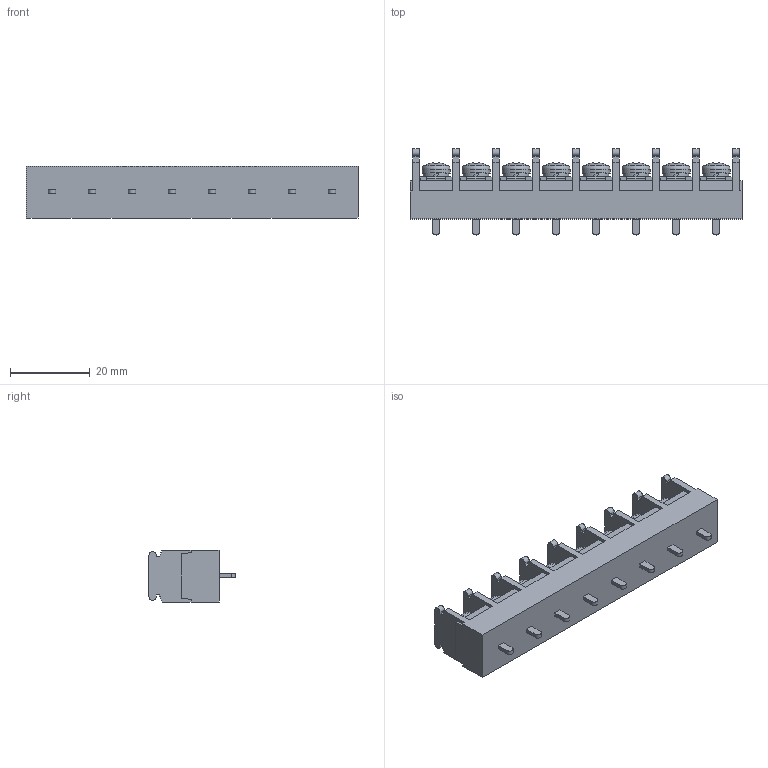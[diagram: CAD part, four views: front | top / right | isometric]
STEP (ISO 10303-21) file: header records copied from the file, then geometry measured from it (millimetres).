
FILE_DESCRIPTION(/* description */ ('Alibre Inc.'),/* implementation_level */ '2;1');
FILE_NAME(/* name */ 'export0',/* time_stamp */ '2015-10-17T18:08:26+09:00',/* author */ (''),/* organization */ (''),/* preprocessor_version */ 'ST-DEVELOPER v14',/* originating_system */ 'Alibre',/* authorisation */ '');
FILE_SCHEMA (('CONFIG_CONTROL_DESIGN'));
Length unit declared in the file: centimetre
Products named in the file (1): ID_1
Bounding box: 83 x 21.5 x 13 mm (x, y, z)
Volume: 12758.2 mm3; surface area: 7413.5 mm2
Topology: 1 solids, 17 shells, 908 faces, 2466 edges, 1636 vertices
Faces by surface type: plane 682, bspline 104, cylinder 66, cone 32, torus 16, sphere 8
Full cylindrical faces by diameter (mm): 4 x8, 6.5 x8, 7 x8
Entity records: 27686 total; most frequent: CARTESIAN_POINT 6126, ORIENTED_EDGE 4820, DIRECTION 3434, EDGE_CURVE 2410, VECTOR 1780, LINE 1780, VERTEX_POINT 1612, AXIS2_PLACEMENT_3D 1166
